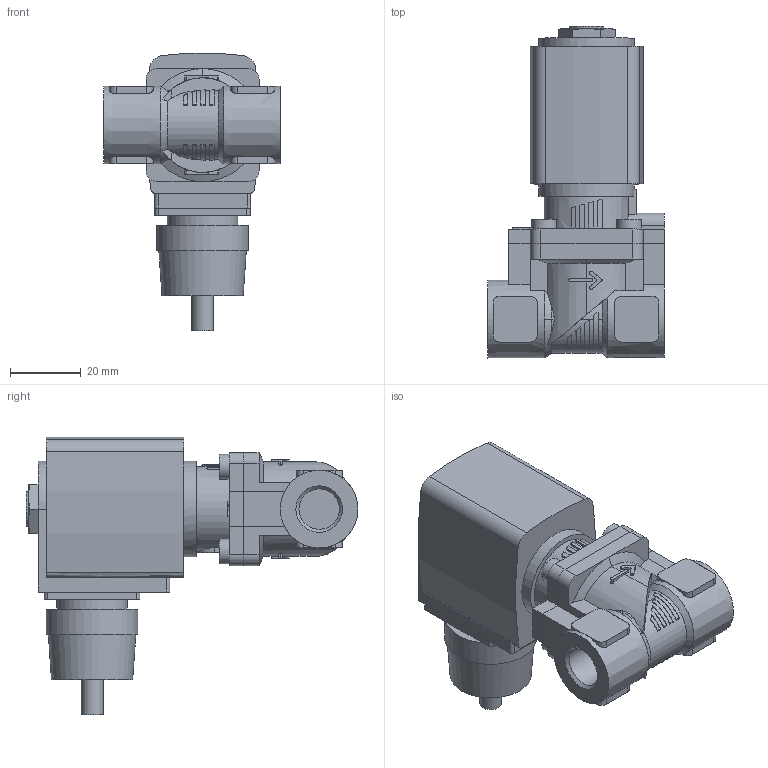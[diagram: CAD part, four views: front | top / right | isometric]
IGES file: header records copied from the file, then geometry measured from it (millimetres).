
Start section: Data from Parasolid IGES Translator 26.0.171, Copyright(c) 2006 Siemens PLM Software. All Rights Reserved.
Global section: file name: 6281-382501-2_2-Way_Solenoid_Valve__Servo-assisted__General_Purpose.igs; native system: By Siemens PLM Incorporated; preprocessor: XPlus GENERIC/IGES 26.0.171; author: Noname; organization: Noname; date: 20240617.145826; units: millimetre
Bounding box: 50 x 94 x 78.71 mm (x, y, z)
Surface area: 23771.6 mm2 (no closed solid volume)
Topology: 0 solids, 0 shells, 301 faces, 1580 edges, 1567 vertices
Faces by surface type: extrusion 180, revolution 121
